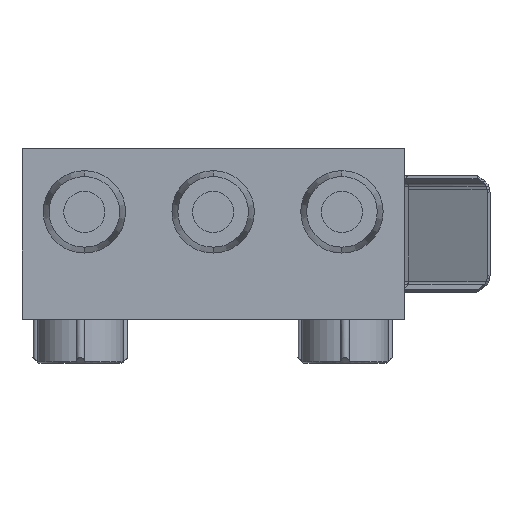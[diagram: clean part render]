
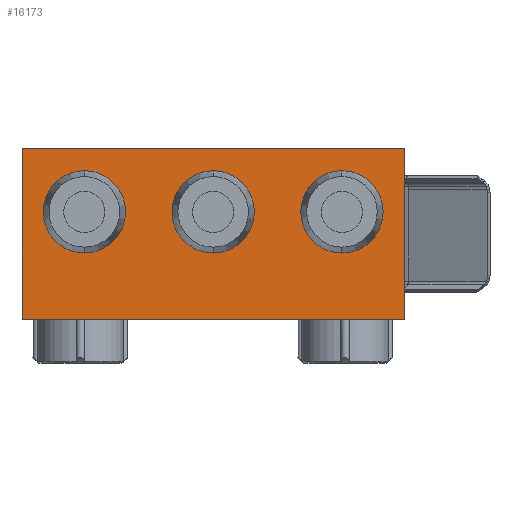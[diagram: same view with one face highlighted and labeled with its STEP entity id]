
A CAD part, front view. The second image highlights one B-rep face of the part: STEP entity #16173.
In plain terms, the highlighted planar face has unit normal (0, -1, 0).
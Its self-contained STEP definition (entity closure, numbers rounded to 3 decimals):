
#8552 = CARTESIAN_POINT ( 'NONE',  ( -4.38, -3.645, 2.15 ) ) ;
#8553 = DIRECTION ( 'NONE',  ( 0., 0., 1. ) ) ;
#8554 = DIRECTION ( 'NONE',  ( 0., 1., 0. ) ) ;
#8555 = CARTESIAN_POINT ( 'NONE',  ( -4.38, -3.645, 0.75 ) ) ;
#8556 = AXIS2_PLACEMENT_3D ( 'NONE', #8555, #8554, #8553 ) ;
#8557 = CIRCLE ( 'NONE', #8556, 1.4 ) ;
#8558 = CARTESIAN_POINT ( 'NONE',  ( -4.38, -3.645, -0.65 ) ) ;
#8828 = VERTEX_POINT ( 'NONE', #17796 ) ;
#8864 = VERTEX_POINT ( 'NONE', #17877 ) ;
#8866 = EDGE_CURVE ( 'NONE', #8828, #8864, #17934, .T. ) ;
#8901 = VERTEX_POINT ( 'NONE', #18001 ) ;
#8903 = EDGE_CURVE ( 'NONE', #8904, #8901, #18000, .T. ) ;
#8904 = VERTEX_POINT ( 'NONE', #17995 ) ;
#8959 = VERTEX_POINT ( 'NONE', #8558 ) ;
#8961 = EDGE_CURVE ( 'NONE', #8962, #8959, #8557, .T. ) ;
#8962 = VERTEX_POINT ( 'NONE', #8552 ) ;
#13008 = VERTEX_POINT ( 'NONE', #15222 ) ;
#13010 = EDGE_CURVE ( 'NONE', #13019, #13008, #15270, .T. ) ;
#13019 = VERTEX_POINT ( 'NONE', #15246 ) ;
#13038 = EDGE_CURVE ( 'NONE', #13129, #13039, #15370, .T. ) ;
#13039 = VERTEX_POINT ( 'NONE', #15366 ) ;
#13129 = VERTEX_POINT ( 'NONE', #15455 ) ;
#15222 = CARTESIAN_POINT ( 'NONE',  ( 6.5, -3.645, -2.9 ) ) ;
#15246 = CARTESIAN_POINT ( 'NONE',  ( -6.5, -3.645, -2.9 ) ) ;
#15267 = DIRECTION ( 'NONE',  ( 1., 0., 0. ) ) ;
#15268 = VECTOR ( 'NONE', #15267, 1000. ) ;
#15269 = CARTESIAN_POINT ( 'NONE',  ( 6.5, -3.645, -2.9 ) ) ;
#15270 = LINE ( 'NONE', #15269, #15268 ) ;
#15366 = CARTESIAN_POINT ( 'NONE',  ( 6.5, -3.645, 2.9 ) ) ;
#15367 = DIRECTION ( 'NONE',  ( 1., 0., 0. ) ) ;
#15368 = VECTOR ( 'NONE', #15367, 1000. ) ;
#15369 = CARTESIAN_POINT ( 'NONE',  ( 6.5, -3.645, 2.9 ) ) ;
#15370 = LINE ( 'NONE', #15369, #15368 ) ;
#15455 = CARTESIAN_POINT ( 'NONE',  ( -6.5, -3.645, 2.9 ) ) ;
#15900 = DIRECTION ( 'NONE',  ( 0., 0., -1. ) ) ;
#15901 = VECTOR ( 'NONE', #15900, 1000. ) ;
#15902 = CARTESIAN_POINT ( 'NONE',  ( -6.5, -3.645, 2.9 ) ) ;
#15903 = LINE ( 'NONE', #15902, #15901 ) ;
#15920 = PLANE ( 'NONE',  #15978 ) ;
#15935 = FACE_OUTER_BOUND ( 'NONE', #16195, .T. ) ;
#15936 = FACE_BOUND ( 'NONE', #16152, .T. ) ;
#15937 = FACE_BOUND ( 'NONE', #16183, .T. ) ;
#15938 = FACE_BOUND ( 'NONE', #16174, .T. ) ;
#15960 = DIRECTION ( 'NONE',  ( 0., 0., -1. ) ) ;
#15961 = VECTOR ( 'NONE', #15960, 1000. ) ;
#15962 = CARTESIAN_POINT ( 'NONE',  ( 6.5, -3.645, 2.9 ) ) ;
#15963 = LINE ( 'NONE', #15962, #15961 ) ;
#15965 = DIRECTION ( 'NONE',  ( 0., 0., 1. ) ) ;
#15966 = DIRECTION ( 'NONE',  ( 0., 1., 0. ) ) ;
#15967 = CARTESIAN_POINT ( 'NONE',  ( 4.38, -3.645, 0.75 ) ) ;
#15968 = AXIS2_PLACEMENT_3D ( 'NONE', #15967, #15966, #15965 ) ;
#15969 = CIRCLE ( 'NONE', #15968, 1.4 ) ;
#15970 = DIRECTION ( 'NONE',  ( 0., 0., 1. ) ) ;
#15971 = DIRECTION ( 'NONE',  ( 0., 1., 0. ) ) ;
#15972 = CARTESIAN_POINT ( 'NONE',  ( 0., -3.645, 0.75 ) ) ;
#15973 = AXIS2_PLACEMENT_3D ( 'NONE', #15972, #15971, #15970 ) ;
#15974 = CIRCLE ( 'NONE', #15973, 1.4 ) ;
#15975 = DIRECTION ( 'NONE',  ( -1., 0., 0. ) ) ;
#15976 = DIRECTION ( 'NONE',  ( 0., 1., 0. ) ) ;
#15977 = CARTESIAN_POINT ( 'NONE',  ( 6.5, -3.645, 2.9 ) ) ;
#15978 = AXIS2_PLACEMENT_3D ( 'NONE', #15977, #15976, #15975 ) ;
#16016 = DIRECTION ( 'NONE',  ( 0., 0., 1. ) ) ;
#16017 = DIRECTION ( 'NONE',  ( 0., 1., 0. ) ) ;
#16018 = CARTESIAN_POINT ( 'NONE',  ( -4.38, -3.645, 0.75 ) ) ;
#16019 = AXIS2_PLACEMENT_3D ( 'NONE', #16018, #16017, #16016 ) ;
#16020 = CIRCLE ( 'NONE', #16019, 1.4 ) ;
#16152 = EDGE_LOOP ( 'NONE', ( #16153, #16217 ) ) ;
#16153 = ORIENTED_EDGE ( 'NONE', *, *, #8961, .T. ) ;
#16156 = EDGE_CURVE ( 'NONE', #13129, #13019, #15903, .T. ) ;
#16173 = ADVANCED_FACE ( 'NONE', ( #15938, #15937, #15936, #15935 ), #15920, .F. ) ;
#16174 = EDGE_LOOP ( 'NONE', ( #16175, #16178 ) ) ;
#16175 = ORIENTED_EDGE ( 'NONE', *, *, #8903, .T. ) ;
#16178 = ORIENTED_EDGE ( 'NONE', *, *, #16182, .T. ) ;
#16179 = ORIENTED_EDGE ( 'NONE', *, *, #16180, .T. ) ;
#16180 = EDGE_CURVE ( 'NONE', #8864, #8828, #15974, .T. ) ;
#16182 = EDGE_CURVE ( 'NONE', #8901, #8904, #15969, .T. ) ;
#16183 = EDGE_LOOP ( 'NONE', ( #16184, #16179 ) ) ;
#16184 = ORIENTED_EDGE ( 'NONE', *, *, #8866, .T. ) ;
#16186 = EDGE_CURVE ( 'NONE', #13039, #13008, #15963, .T. ) ;
#16189 = ORIENTED_EDGE ( 'NONE', *, *, #16156, .T. ) ;
#16195 = EDGE_LOOP ( 'NONE', ( #16196, #16197, #16198, #16189 ) ) ;
#16196 = ORIENTED_EDGE ( 'NONE', *, *, #13010, .T. ) ;
#16197 = ORIENTED_EDGE ( 'NONE', *, *, #16186, .F. ) ;
#16198 = ORIENTED_EDGE ( 'NONE', *, *, #13038, .F. ) ;
#16217 = ORIENTED_EDGE ( 'NONE', *, *, #16219, .T. ) ;
#16219 = EDGE_CURVE ( 'NONE', #8959, #8962, #16020, .T. ) ;
#17796 = CARTESIAN_POINT ( 'NONE',  ( 0., -3.645, 2.15 ) ) ;
#17877 = CARTESIAN_POINT ( 'NONE',  ( 0., -3.645, -0.65 ) ) ;
#17930 = DIRECTION ( 'NONE',  ( 0., 0., 1. ) ) ;
#17931 = DIRECTION ( 'NONE',  ( 0., 1., 0. ) ) ;
#17932 = CARTESIAN_POINT ( 'NONE',  ( 0., -3.645, 0.75 ) ) ;
#17933 = AXIS2_PLACEMENT_3D ( 'NONE', #17932, #17931, #17930 ) ;
#17934 = CIRCLE ( 'NONE', #17933, 1.4 ) ;
#17995 = CARTESIAN_POINT ( 'NONE',  ( 4.38, -3.645, 2.15 ) ) ;
#17996 = DIRECTION ( 'NONE',  ( 0., 0., 1. ) ) ;
#17997 = DIRECTION ( 'NONE',  ( 0., 1., 0. ) ) ;
#17998 = CARTESIAN_POINT ( 'NONE',  ( 4.38, -3.645, 0.75 ) ) ;
#17999 = AXIS2_PLACEMENT_3D ( 'NONE', #17998, #17997, #17996 ) ;
#18000 = CIRCLE ( 'NONE', #17999, 1.4 ) ;
#18001 = CARTESIAN_POINT ( 'NONE',  ( 4.38, -3.645, -0.65 ) ) ;
